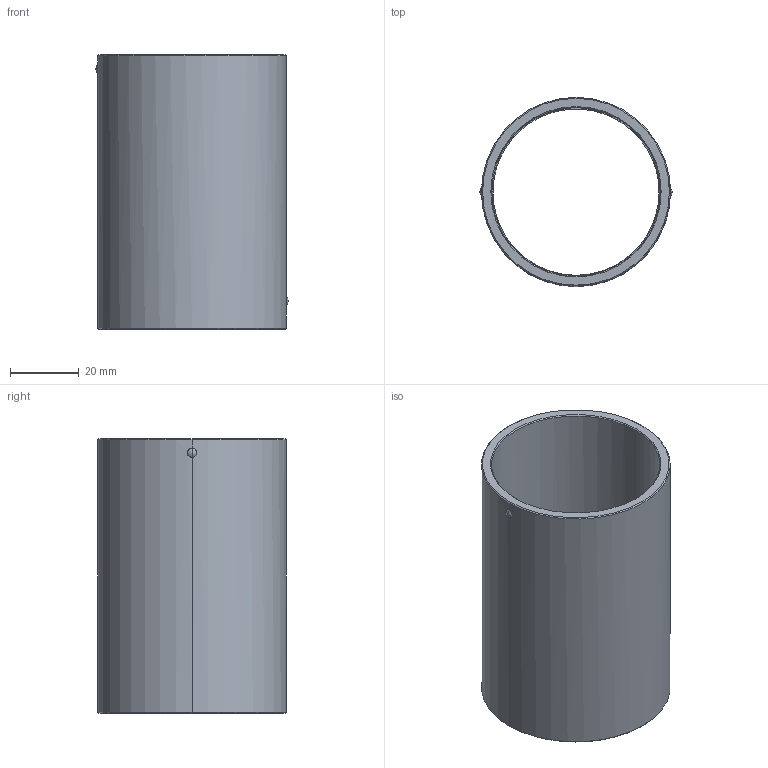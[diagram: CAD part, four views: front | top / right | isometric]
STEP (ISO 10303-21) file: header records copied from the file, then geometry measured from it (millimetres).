
FILE_DESCRIPTION(('CATIA V5 STEP Exchange'),'2;1');
FILE_NAME('C:\Users\Utente\Desktop\IO LAVORO\3D X SITO CF\X SITO\730\730-48x80.stp','2021-01-07T16:06:28+00:00',('none'),('none'),'CATIA Version 5 Release 20 GA (IN-10)','CATIA V5 STEP AP203','none');
FILE_SCHEMA(('CONFIG_CONTROL_DESIGN'));
Length unit declared in the file: millimetre
Products named in the file (1): 730-48x80
Bounding box: 55.99 x 55 x 80 mm (x, y, z)
Volume: 38490.7 mm3; surface area: 27639.7 mm2
Topology: 1 solids, 1 shells, 44 faces, 120 edges, 76 vertices
Faces by surface type: cylinder 18, cone 10, plane 8, sphere 8
Entity records: 1743 total; most frequent: CARTESIAN_POINT 680, ORIENTED_EDGE 240, DIRECTION 159, EDGE_CURVE 120, AXIS2_PLACEMENT_3D 78, VERTEX_POINT 76, B_SPLINE_CURVE_WITH_KNOTS 49, EDGE_LOOP 48
